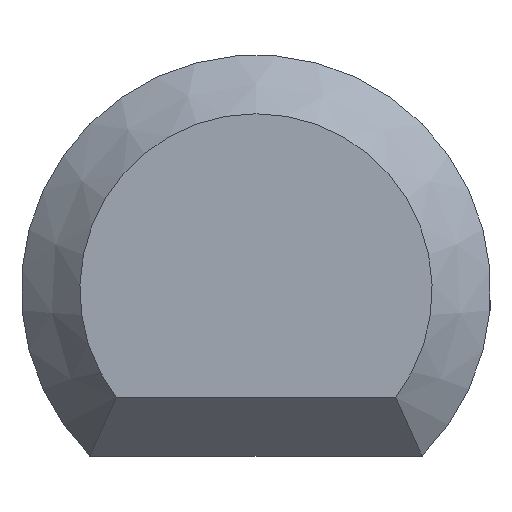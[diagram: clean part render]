
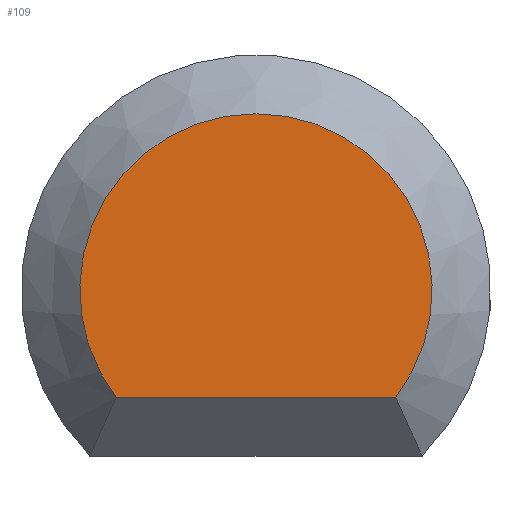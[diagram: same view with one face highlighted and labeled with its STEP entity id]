
A CAD part, left-side view. The second image highlights one B-rep face of the part: STEP entity #109.
In plain terms, the highlighted planar face has unit normal (-1, 0, 0).
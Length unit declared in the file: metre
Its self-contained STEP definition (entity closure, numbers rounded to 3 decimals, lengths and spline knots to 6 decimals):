
#21=CIRCLE('',#134,0.0009);
#33=ORIENTED_EDGE('',*,*,#59,.T.);
#34=ORIENTED_EDGE('',*,*,#60,.T.);
#59=EDGE_CURVE('',#71,#72,#21,.F.);
#60=EDGE_CURVE('',#72,#71,#78,.T.);
#71=VERTEX_POINT('',#191);
#72=VERTEX_POINT('',#192);
#78=LINE('',#193,#84);
#84=VECTOR('',#162,1.);
#88=EDGE_LOOP('',(#33,#34));
#96=FACE_BOUND('',#88,.T.);
#103=PLANE('',#133);
#109=ADVANCED_FACE('',(#96),#103,.F.);
#133=AXIS2_PLACEMENT_3D('',#189,#158,#159);
#134=AXIS2_PLACEMENT_3D('',#190,#160,#161);
#158=DIRECTION('',(1.,0.,0.));
#159=DIRECTION('',(0.,-1.,0.));
#160=DIRECTION('',(1.,0.,0.));
#161=DIRECTION('',(0.,0.,-1.));
#162=DIRECTION('',(0.,-1.,0.));
#189=CARTESIAN_POINT('',(0.,-0.001697,0.001449));
#190=CARTESIAN_POINT('',(0.,-0.001697,0.001697));
#191=CARTESIAN_POINT('',(0.,-0.002411,0.001149));
#192=CARTESIAN_POINT('',(0.,-0.000984,0.001149));
#193=CARTESIAN_POINT('',(0.,-0.002546,0.001149));
